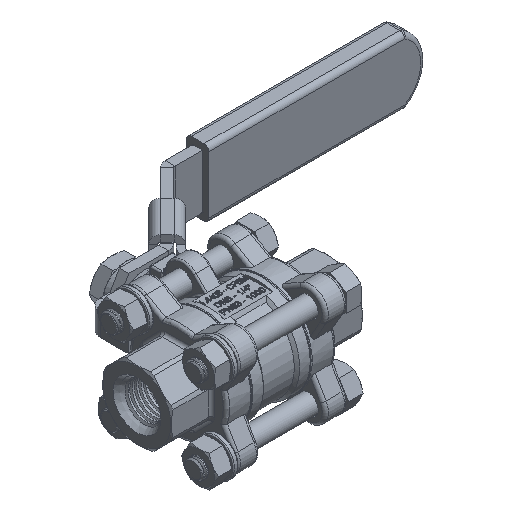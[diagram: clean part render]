
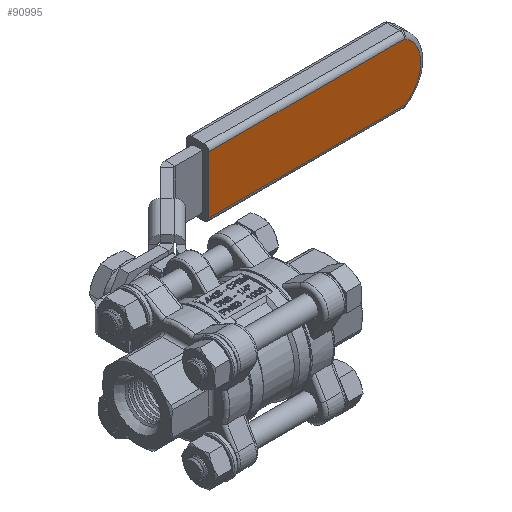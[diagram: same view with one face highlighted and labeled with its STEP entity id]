
A CAD part, isometric view. The second image highlights one B-rep face of the part: STEP entity #90995.
In plain terms, the highlighted planar face has unit normal (0, -1, 0).
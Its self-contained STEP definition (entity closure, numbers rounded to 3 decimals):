
#90773=CARTESIAN_POINT('',(102.408,48.5,9.));
#90774=VERTEX_POINT('',#90773);
#90782=CARTESIAN_POINT('',(102.408,48.5,-9.));
#90783=VERTEX_POINT('',#90782);
#90784=CARTESIAN_POINT('',(97.,48.5,0.));
#90785=DIRECTION('',(0.0,-1.0,0.0));
#90786=DIRECTION('',(0.0,0.0,1.0));
#90787=AXIS2_PLACEMENT_3D('',#90784,#90785,#90786);
#90788=CIRCLE('',#90787,10.5);
#90789=EDGE_CURVE('',#90783,#90774,#90788,.T.);
#90965=CARTESIAN_POINT('',(97.,48.5,0.));
#90966=DIRECTION('',(0.0,1.0,0.0));
#90967=DIRECTION('',(0.0,0.0,1.0));
#90968=AXIS2_PLACEMENT_3D('',#90965,#90966,#90967);
#90969=PLANE('',#90968);
#90970=CARTESIAN_POINT('',(41.,48.5,-9.));
#90971=VERTEX_POINT('',#90970);
#90972=CARTESIAN_POINT('',(41.,48.5,9.));
#90973=VERTEX_POINT('',#90972);
#90974=CARTESIAN_POINT('',(41.,48.5,-9.));
#90975=DIRECTION('',(0.0,0.0,1.0));
#90976=VECTOR('',#90975,18.);
#90977=LINE('',#90974,#90976);
#90978=EDGE_CURVE('',#90971,#90973,#90977,.T.);
#90979=ORIENTED_EDGE('',*,*,#90978,.F.);
#90980=CARTESIAN_POINT('',(41.,48.5,-9.));
#90981=DIRECTION('',(1.0,0.0,0.0));
#90982=VECTOR('',#90981,61.408);
#90983=LINE('',#90980,#90982);
#90984=EDGE_CURVE('',#90971,#90783,#90983,.T.);
#90985=ORIENTED_EDGE('',*,*,#90984,.T.);
#90986=ORIENTED_EDGE('',*,*,#90789,.T.);
#90987=CARTESIAN_POINT('',(102.408,48.5,9.));
#90988=DIRECTION('',(-1.0,0.0,0.0));
#90989=VECTOR('',#90988,61.408);
#90990=LINE('',#90987,#90989);
#90991=EDGE_CURVE('',#90774,#90973,#90990,.T.);
#90992=ORIENTED_EDGE('',*,*,#90991,.T.);
#90993=EDGE_LOOP('',(#90979,#90985,#90986,#90992));
#90994=FACE_OUTER_BOUND('',#90993,.T.);
#90995=ADVANCED_FACE('',(#90994),#90969,.F.);
